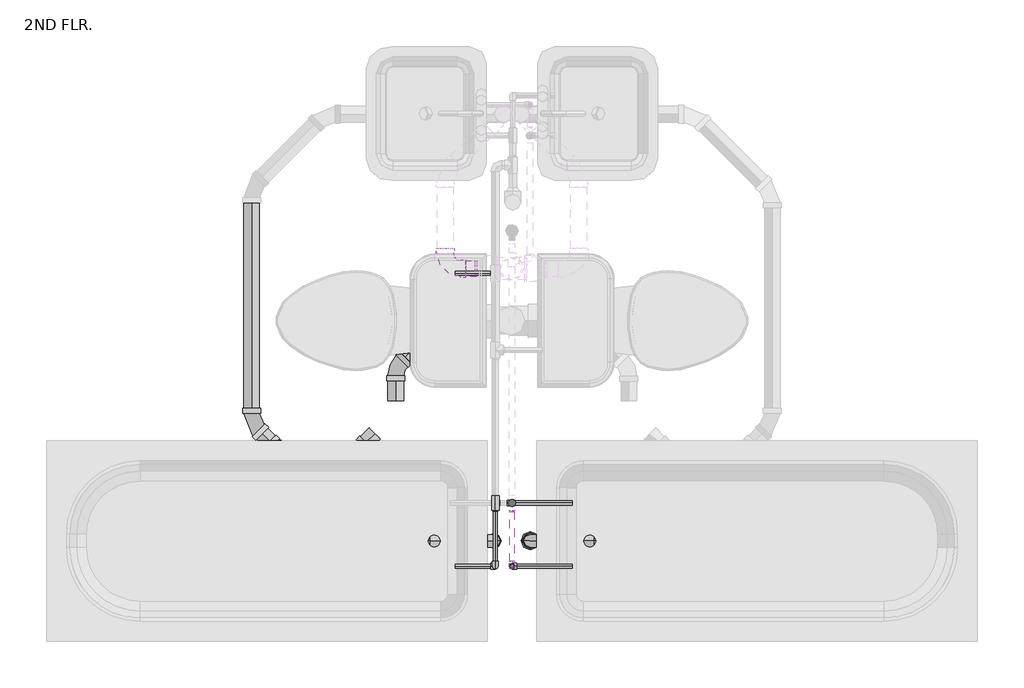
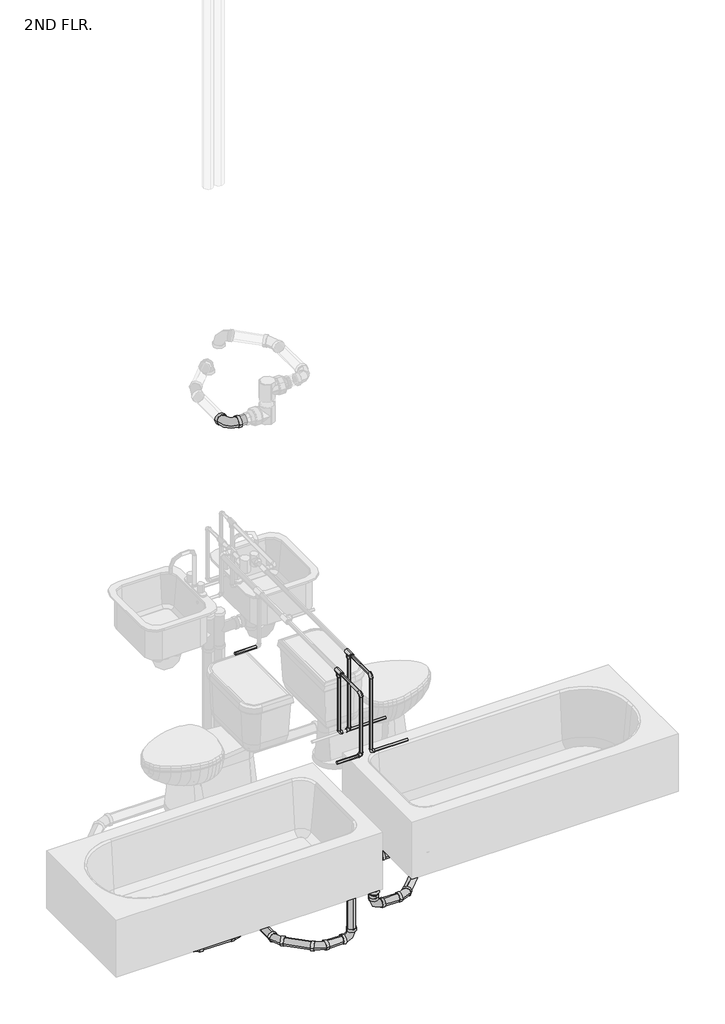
# One storey, part 5 of 15: 31 pipe fittings, 31 pipe segments.
"""IFC4 building model written with IfcOpenShell, lengths in millimetres."""

from ifc_helpers import new_model, si_unit, point, frame, frame_2d, origin, place, context, project, spatial, circle_curve, trimmed, segment, composite_curve, outline, extrude, transform, mapped, element, save
from components import bend_pvc_sch_40_dwv_standard_738aab8b, bend_pvc_sch_40_dwv_standard_e59a9f3a, bend_pvc_sch_40_dwv_standard_35af41d9, bend_pvc_sch_40_dwv_standard_c28c2be1, bend_pvc_sch_40_dwv_standard_1eaeee76, bend_pvc_sch_40_dwv_standard_7417f2e3, bend_pvc_sch_40_dwv_standard_1a41d59f, bend_pvc_sch_40_dwv_standard_f64d1520, bend_pvc_sch_40_dwv_standard_b7f24270, pipe_elbow_copper_k_aad62f2d, pipe_tee_copper_k_ee363fbf, pipe_transition_copper_k_859ff352, reducer_pvc_sch_40_dwv_standard_b2b0afcc, reducer_pvc_sch_40_dwv_standard_230e9924

model = new_model("IFC4")

# Units and contexts
model_context = context("Model", 3, world=origin())
ifc_project = project(units=[si_unit("LENGTHUNIT", "METRE", prefix="MILLI")], contexts=[model_context])

# Site, building, storey
site = spatial("IfcSite", under=ifc_project)
building = spatial("IfcBuilding", under=site)
storey = spatial("IfcBuildingStorey", under=building, Name="2ND FLR.", Elevation=2844.8)

# Pipe fittings
placement = place(None, origin())
bend_pvc_sch_40_dwv_standard_shape = bend_pvc_sch_40_dwv_standard_738aab8b(model_context)
element("IfcPipeFitting", 1, ObjectType="Bend - PVC - Sch 40 - DWV : Standard", at=placement, inside=storey, context=model_context, shape_type="MappedRepresentation", body=[
    mapped(bend_pvc_sch_40_dwv_standard_shape, transform((2187.8261339, 6842.0859908, 2762.4996815), x_axis=(0.0, 0.0, 1.0), y_axis=(1.0, 0.0, 0.0), z_axis=(0.0, 1.0, 0.0))),
])
element("IfcPipeFitting", 2, ObjectType="Bend - PVC - Sch 40 - DWV : Standard", at=placement, inside=storey, context=model_context, shape_type="MappedRepresentation", body=[
    mapped(bend_pvc_sch_40_dwv_standard_shape, transform((2187.8261339, 6842.0829061, 2448.8949826), x_axis=(0.0, 0.0, -1.0), y_axis=(1.0, 0.0, 0.0), z_axis=(0.0, -1.0, 0.0))),
])
element("IfcPipeFitting", 3, ObjectType="Bend - PVC - Sch 40 - DWV : Standard", at=placement, inside=storey, context=model_context, shape_type="MappedRepresentation", body=[
    mapped(bend_pvc_sch_40_dwv_standard_shape, transform((2492.6261339, 6842.0859908, 2762.4996815), x_axis=(1.0, 0.0, 0.0), y_axis=(0.0, 0.0, 1.0), z_axis=(0.0, -1.0, 0.0))),
])
bend_pvc_sch_40_dwv_standard_2_shape = bend_pvc_sch_40_dwv_standard_e59a9f3a(model_context)
element("IfcPipeFitting", 4, ObjectType="Bend - PVC - Sch 40 - DWV : Standard", at=placement, inside=storey, context=model_context, shape_type="MappedRepresentation", body=[
    mapped(bend_pvc_sch_40_dwv_standard_2_shape, transform((2386.114944, 6842.0829061, 2448.8949826), x_axis=(1.0, 0.0, 0.0), y_axis=(0.0, 1.0, 0.0), z_axis=(0.0, 0.0, 1.0))),
])
bend_pvc_sch_40_dwv_standard_3_shape = bend_pvc_sch_40_dwv_standard_35af41d9(model_context)
element("IfcPipeFitting", 5, ObjectType="Bend - PVC - Sch 40 - DWV : Standard", at=placement, inside=storey, context=model_context, shape_type="MappedRepresentation", body=[
    mapped(bend_pvc_sch_40_dwv_standard_3_shape, transform((2048.7908411, 6842.0859908, 2762.4996815), x_axis=(0.0, 0.0, 1.0), y_axis=(1.0, 0.0, 0.0), z_axis=(0.0, 1.0, 0.0))),
])
element("IfcPipeFitting", 6, ObjectType="Bend - PVC - Sch 40 - DWV : Standard", at=placement, inside=storey, context=model_context, shape_type="MappedRepresentation", body=[
    mapped(bend_pvc_sch_40_dwv_standard_3_shape, transform((2048.7908411, 6842.0839258, 2291.2212536), x_axis=(0.0, 0.0, -1.0), y_axis=(1.0, 0.0, 0.0), z_axis=(0.0, -1.0, 0.0))),
])
element("IfcPipeFitting", 7, ObjectType="Bend - PVC - Sch 40 - DWV : Standard", at=placement, inside=storey, context=model_context, shape_type="MappedRepresentation", body=[
    mapped(bend_pvc_sch_40_dwv_standard_3_shape, transform((1743.9908411, 6842.0859908, 2762.4996815), x_axis=(-1.0, 0.0, 0.0), y_axis=(0.0, 0.0, -1.0), z_axis=(0.0, -1.0, 0.0))),
])
bend_pvc_sch_40_dwv_standard_4_shape = bend_pvc_sch_40_dwv_standard_c28c2be1(model_context)
element("IfcPipeFitting", 8, ObjectType="Bend - PVC - Sch 40 - DWV : Standard", at=placement, inside=storey, context=model_context, shape_type="MappedRepresentation", body=[
    mapped(bend_pvc_sch_40_dwv_standard_4_shape, transform((1676.2806203, 7016.3063561, 2291.2212536), x_axis=(-0.7071067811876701, 0.7071067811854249, 0.0), y_axis=(-0.7071067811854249, -0.7071067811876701, 0.0), z_axis=(0.0, 0.0, 1.0))),
])
element("IfcPipeFitting", 9, ObjectType="Bend - PVC - Sch 40 - DWV : Standard", at=placement, inside=storey, context=model_context, shape_type="MappedRepresentation", body=[
    mapped(bend_pvc_sch_40_dwv_standard_4_shape, transform((1850.5030506, 6842.0839258, 2291.2212536), x_axis=(-1.0, 0.0, 0.0), y_axis=(0.0, -1.0, 0.0), z_axis=(0.0, 0.0, 1.0))),
])
bend_pvc_sch_40_dwv_standard_5_shape = bend_pvc_sch_40_dwv_standard_1eaeee76(model_context)
element("IfcPipeFitting", 10, ObjectType="Bend - PVC - Sch 40 - DWV : Standard", at=placement, inside=storey, context=model_context, shape_type="MappedRepresentation", body=[
    mapped(bend_pvc_sch_40_dwv_standard_5_shape, transform((1864.3084875, 7876.8887644, 5130.8), x_axis=(0.0, -0.9999999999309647, 1.1750347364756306e-05), y_axis=(1.0, 0.0, 0.0), z_axis=(0.0, 1.1750347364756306e-05, 0.9999999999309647))),
])
element("IfcPipeFitting", 11, ObjectType="Bend - PVC - Sch 40 - DWV : Standard", at=placement, inside=storey, context=model_context, shape_type="MappedRepresentation", body=[
    mapped(bend_pvc_sch_40_dwv_standard_5_shape, transform((1864.3084875, 7876.8887644, 5130.7990858), x_axis=(0.0, -0.9999999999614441, 8.781345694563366e-06), y_axis=(1.0000000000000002, 0.0, 0.0), z_axis=(0.0, 8.781345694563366e-06, 0.9999999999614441))),
])
bend_pvc_sch_40_dwv_standard_6_shape = bend_pvc_sch_40_dwv_standard_7417f2e3(model_context)
element("IfcPipeFitting", 12, ObjectType="Bend - PVC - Sch 40 - DWV : Standard", at=placement, inside=storey, context=model_context, shape_type="MappedRepresentation", body=[
    mapped(bend_pvc_sch_40_dwv_standard_6_shape, transform((1565.9080231, 7679.2137881, 2290.1699315), x_axis=(-0.9999739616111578, 0.0, -0.0072163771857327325), y_axis=(0.0072163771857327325, 0.0, -0.9999739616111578), z_axis=(0.0, -1.0, 0.0))),
])
bend_pvc_sch_40_dwv_standard_7_shape = bend_pvc_sch_40_dwv_standard_1a41d59f(model_context)
element("IfcPipeFitting", 13, ObjectType="Bend - PVC - Sch 40 - DWV : Standard", at=placement, inside=storey, context=model_context, shape_type="MappedRepresentation", body=[
    mapped(bend_pvc_sch_40_dwv_standard_7_shape, transform((1676.2806203, 7502.8568393, 2291.2212536), x_axis=(0.0, 1.0, 0.0), y_axis=(-0.9999186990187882, 0.0, -0.012751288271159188), z_axis=(-0.012751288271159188, 0.0, 0.9999186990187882))),
])
bend_pvc_sch_40_dwv_standard_8_shape = bend_pvc_sch_40_dwv_standard_f64d1520(model_context)
element("IfcPipeFitting", 14, ObjectType="Bend - PVC - Sch 40 - DWV : Standard", at=placement, inside=storey, context=model_context, shape_type="MappedRepresentation", body=[
    mapped(bend_pvc_sch_40_dwv_standard_8_shape, transform((1127.6578381, 7289.5723223, 2291.1952447), x_axis=(-0.707106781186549, 0.707106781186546, 0.0), y_axis=(-0.707106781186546, -0.707106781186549, 0.0), z_axis=(0.0, 0.0, 1.0))),
])
element("IfcPipeFitting", 15, ObjectType="Bend - PVC - Sch 40 - DWV : Standard", at=placement, inside=storey, context=model_context, shape_type="MappedRepresentation", body=[
    mapped(bend_pvc_sch_40_dwv_standard_8_shape, transform((1237.3759139, 7179.8542465, 2291.1952447), x_axis=(-1.0, 0.0, 0.0), y_axis=(0.0, -1.0, 0.0), z_axis=(0.0, 0.0, 1.0))),
])
bend_pvc_sch_40_dwv_standard_9_shape = bend_pvc_sch_40_dwv_standard_b7f24270(model_context)
element("IfcPipeFitting", 16, ObjectType="Bend - PVC - Sch 40 - DWV : Standard", at=placement, inside=storey, context=model_context, shape_type="MappedRepresentation", body=[
    mapped(bend_pvc_sch_40_dwv_standard_9_shape, transform((1525.8654903, 7179.8542465, 2291.1952447), x_axis=(-0.7071067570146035, -0.7071067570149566, -0.0002614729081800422), y_axis=(0.7071068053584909, -0.7071067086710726, -0.0002614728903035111), z_axis=(0.0, -0.0003697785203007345, 0.9999999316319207))),
])
pipe_elbow_copper_k_shape = pipe_elbow_copper_k_aad62f2d(model_context)
element("IfcPipeFitting", 17, ObjectType="Pipe Elbow : Copper- K", at=placement, inside=storey, context=model_context, shape_type="MappedRepresentation", body=[
    mapped(pipe_elbow_copper_k_shape, transform((2118.3084875, 6746.0012881, 4064.0), x_axis=(0.0, -1.0, 0.0), y_axis=(0.0, 0.0, -1.0), z_axis=(1.0, 0.0, 0.0))),
])
element("IfcPipeFitting", 18, ObjectType="Pipe Elbow : Copper- K", at=placement, inside=storey, context=model_context, shape_type="MappedRepresentation", body=[
    mapped(pipe_elbow_copper_k_shape, transform((2118.3084875, 6746.0012881, 3556.0), x_axis=(0.0, 0.0, -1.0), y_axis=(1.0, 0.0, 0.0), z_axis=(0.0, -1.0, 0.0))),
])
element("IfcPipeFitting", 19, ObjectType="Pipe Elbow : Copper- K", at=placement, inside=storey, context=model_context, shape_type="MappedRepresentation", body=[
    mapped(pipe_elbow_copper_k_shape, transform((2118.3084875, 6986.022219, 3556.0), x_axis=(0.0, 0.0, -1.0), y_axis=(-1.0, 0.0, 0.0), z_axis=(0.0, 1.0, 0.0))),
])
element("IfcPipeFitting", 20, ObjectType="Pipe Elbow : Copper- K", at=placement, inside=storey, context=model_context, shape_type="MappedRepresentation", body=[
    mapped(pipe_elbow_copper_k_shape, transform((2054.8084875, 6746.0012881, 3962.4), x_axis=(0.0, -1.0, 0.0), y_axis=(0.0, 0.0, -1.0), z_axis=(1.0, 0.0, 0.0))),
])
element("IfcPipeFitting", 21, ObjectType="Pipe Elbow : Copper- K", at=placement, inside=storey, context=model_context, shape_type="MappedRepresentation", body=[
    mapped(pipe_elbow_copper_k_shape, transform((2054.8084875, 6746.0012881, 3556.0), x_axis=(0.0, 0.0, -1.0), y_axis=(-1.0, 0.0, 0.0), z_axis=(0.0, 1.0, 0.0))),
])
element("IfcPipeFitting", 22, ObjectType="Pipe Elbow : Copper- K", at=placement, inside=storey, context=model_context, shape_type="MappedRepresentation", body=[
    mapped(pipe_elbow_copper_k_shape, transform((2054.8084875, 6986.022219, 3556.0), x_axis=(0.0, 0.0, -1.0), y_axis=(1.0, 0.0, 0.0), z_axis=(0.0, -1.0, 0.0))),
])
pipe_tee_copper_k_shape = pipe_tee_copper_k_ee363fbf(model_context)
element("IfcPipeFitting", 23, ObjectType="Pipe Tee : Copper- K", at=placement, inside=storey, context=model_context, shape_type="MappedRepresentation", body=[
    mapped(pipe_tee_copper_k_shape, transform((2118.3084875, 6986.022219, 4064.0), x_axis=(0.0, 1.0, 0.0), y_axis=(0.0, 0.0, 1.0), z_axis=(1.0, 0.0, 0.0))),
])
element("IfcPipeFitting", 24, ObjectType="Pipe Tee : Copper- K", at=placement, inside=storey, context=model_context, shape_type="MappedRepresentation", body=[
    mapped(pipe_tee_copper_k_shape, transform((2054.8084875, 6986.022219, 3962.4), x_axis=(0.0, 1.0, 0.0), y_axis=(0.0, 0.0, 1.0), z_axis=(1.0, 0.0, 0.0))),
])
pipe_transition_copper_k_shape = pipe_transition_copper_k_859ff352(model_context)
element("IfcPipeFitting", 25, ObjectType="Pipe Transition : Copper- K", at=placement, inside=storey, context=model_context, shape_type="MappedRepresentation", body=[
    mapped(pipe_transition_copper_k_shape, transform((2118.3084875, 6986.022219, 4037.0125), x_axis=(0.0, 0.0, -1.0), y_axis=(0.0, -1.0, 0.0), z_axis=(-1.0, 0.0, 0.0))),
])
element("IfcPipeFitting", 26, ObjectType="Pipe Transition : Copper- K", at=placement, inside=storey, context=model_context, shape_type="MappedRepresentation", body=[
    mapped(pipe_transition_copper_k_shape, transform((2054.8084875, 6986.022219, 3935.4125), x_axis=(0.0, 0.0, -1.0), y_axis=(0.0, 1.0, 0.0), z_axis=(1.0, 0.0, 0.0))),
])
element("IfcPipeFitting", 27, ObjectType="Pipe Transition : Copper- K", at=placement, inside=storey, context=model_context, shape_type="MappedRepresentation", body=[
    mapped(pipe_transition_copper_k_shape, transform((2118.3084875, 6959.034719, 4064.0), x_axis=(0.0, -1.0, 0.0), y_axis=(1.0, 0.0, 0.0), z_axis=(0.0, 0.0, 1.0))),
])
element("IfcPipeFitting", 28, ObjectType="Pipe Transition : Copper- K", at=placement, inside=storey, context=model_context, shape_type="MappedRepresentation", body=[
    mapped(pipe_transition_copper_k_shape, transform((2054.8084875, 6959.034719, 3962.4), x_axis=(0.0, -1.0, 0.0), y_axis=(1.0, 0.0, 0.0), z_axis=(0.0, 0.0, 1.0))),
])
reducer_pvc_sch_40_dwv_standard_shape = reducer_pvc_sch_40_dwv_standard_b2b0afcc(model_context)
element("IfcPipeFitting", 29, ObjectType="Reducer - PVC - Sch 40 - DWV : Standard", at=placement, inside=storey, context=model_context, shape_type="MappedRepresentation", body=[
    mapped(reducer_pvc_sch_40_dwv_standard_shape, transform((2187.8261339, 6842.0829061, 2510.7947826), x_axis=(0.0, 0.0, 1.0), y_axis=(0.0, 1.0, 0.0), z_axis=(-1.0, 0.0, 0.0))),
])
reducer_pvc_sch_40_dwv_standard_2_shape = reducer_pvc_sch_40_dwv_standard_230e9924(model_context)
element("IfcPipeFitting", 30, ObjectType="Reducer - PVC - Sch 40 - DWV : Standard", at=placement, inside=storey, context=model_context, shape_type="MappedRepresentation", body=[
    mapped(reducer_pvc_sch_40_dwv_standard_2_shape, transform((2187.8261339, 6842.0859908, 2700.5998815), x_axis=(0.0, 0.0, -1.0), y_axis=(0.0, -1.0, 0.0), z_axis=(-1.0, 0.0, 0.0))),
])
element("IfcPipeFitting", 31, ObjectType="Reducer - PVC - Sch 40 - DWV : Standard", at=placement, inside=storey, context=model_context, shape_type="MappedRepresentation", body=[
    mapped(reducer_pvc_sch_40_dwv_standard_2_shape, transform((2492.6261339, 6842.0859908, 2824.3994815), x_axis=(0.0, 0.0, 1.0), y_axis=(-1.0, 0.0, 0.0), z_axis=(0.0, -1.0, 0.0))),
])

# Pipe segments
element("IfcPipeSegment", 32, ObjectType="Copper", at=placement, inside=storey, context=model_context, shape_type="SweptSolid", body=[
    extrude(outline(composite_curve([segment(trimmed(circle_curve(frame_2d((4064.0, 2118.3084875)), 7.9375), [point((4064.0, 2110.3709875))], [point((4056.0625, 2118.3084875))], False, "CARTESIAN"), True, "CONTINUOUS"), segment(trimmed(circle_curve(frame_2d((4064.0, 2118.3084875)), 7.9375), [point((4056.0625, 2118.3084875))], [point((4064.0, 2126.2459875))], False, "CARTESIAN"), True, "CONTINUOUS"), segment(trimmed(circle_curve(frame_2d((4064.0, 2118.3084875)), 7.9375), [point((4064.0, 2126.2459875))], [point((4071.9375, 2118.3084875))], False, "CARTESIAN"), True, "CONTINUOUS"), segment(trimmed(circle_curve(frame_2d((4064.0, 2118.3084875)), 7.9375), [point((4071.9375, 2118.3084875))], [point((4064.0, 2110.3709875))], False, "CARTESIAN"), True, "CONTINUOUS")], self_intersect=False)), frame((0.0, 6763.4637881, 0.0), z_axis=(0.0, 1.0, 0.0), x_axis=(0.0, 0.0, 1.0)), (0.0, 0.0, 1.0), 190.0146809),
])
element("IfcPipeSegment", 33, ObjectType="Copper", at=placement, inside=storey, context=model_context, shape_type="SweptSolid", body=[
    extrude(outline(composite_curve([segment(trimmed(circle_curve(frame_2d((7859.3528944, 3606.8)), 7.9375), [point((7867.2903944, 3606.8))], [point((7859.3528944, 3598.8625))], False, "CARTESIAN"), True, "CONTINUOUS"), segment(trimmed(circle_curve(frame_2d((7859.3528944, 3606.8)), 7.9375), [point((7859.3528944, 3598.8625))], [point((7851.4153944, 3606.8))], False, "CARTESIAN"), True, "CONTINUOUS"), segment(trimmed(circle_curve(frame_2d((7859.3528944, 3606.8)), 7.9375), [point((7851.4153944, 3606.8))], [point((7859.3528944, 3614.7375))], False, "CARTESIAN"), True, "CONTINUOUS"), segment(trimmed(circle_curve(frame_2d((7859.3528944, 3606.8)), 7.9375), [point((7859.3528944, 3614.7375))], [point((7867.2903944, 3606.8))], False, "CARTESIAN"), True, "CONTINUOUS")], self_intersect=False)), frame((1902.4084875, 0.0, 0.0), z_axis=(1.0, 0.0, 0.0), x_axis=(0.0, 1.0, 0.0)), (0.0, 0.0, 1.0), 134.9375),
])
element("IfcPipeSegment", 34, ObjectType="Copper", at=placement, inside=storey, context=model_context, shape_type="SweptSolid", body=[
    extrude(outline(composite_curve([segment(trimmed(circle_curve(frame_2d((6746.0012881, 3556.0)), 7.9375), [point((6738.0637881, 3556.0))], [point((6746.0012881, 3563.9375))], False, "CARTESIAN"), True, "CONTINUOUS"), segment(trimmed(circle_curve(frame_2d((6746.0012881, 3556.0)), 7.9375), [point((6746.0012881, 3563.9375))], [point((6753.9387881, 3556.0))], False, "CARTESIAN"), True, "CONTINUOUS"), segment(trimmed(circle_curve(frame_2d((6746.0012881, 3556.0)), 7.9375), [point((6753.9387881, 3556.0))], [point((6746.0012881, 3548.0625))], False, "CARTESIAN"), True, "CONTINUOUS"), segment(trimmed(circle_curve(frame_2d((6746.0012881, 3556.0)), 7.9375), [point((6746.0012881, 3548.0625))], [point((6738.0637881, 3556.0))], False, "CARTESIAN"), True, "CONTINUOUS")], self_intersect=False)), frame((2135.7709875, 0.0, 0.0), z_axis=(1.0, 0.0, 0.0), x_axis=(0.0, 1.0, 0.0)), (0.0, 0.0, 1.0), 211.1375),
])
element("IfcPipeSegment", 35, ObjectType="Copper", at=placement, inside=storey, context=model_context, shape_type="SweptSolid", body=[
    extrude(outline(composite_curve([segment(trimmed(circle_curve(frame_2d((2118.3084875, 6746.0012881)), 7.9375), [point((2126.2459875, 6746.0012881))], [point((2118.3084875, 6738.0637881))], False, "CARTESIAN"), True, "CONTINUOUS"), segment(trimmed(circle_curve(frame_2d((2118.3084875, 6746.0012881)), 7.9375), [point((2118.3084875, 6738.0637881))], [point((2110.3709875, 6746.0012881))], False, "CARTESIAN"), True, "CONTINUOUS"), segment(trimmed(circle_curve(frame_2d((2118.3084875, 6746.0012881)), 7.9375), [point((2110.3709875, 6746.0012881))], [point((2118.3084875, 6753.9387881))], False, "CARTESIAN"), True, "CONTINUOUS"), segment(trimmed(circle_curve(frame_2d((2118.3084875, 6746.0012881)), 7.9375), [point((2118.3084875, 6753.9387881))], [point((2126.2459875, 6746.0012881))], False, "CARTESIAN"), True, "CONTINUOUS")], self_intersect=False)), frame((0.0, 0.0, 3573.4625), z_axis=(0.0, 0.0, 1.0), x_axis=(1.0, 0.0, 0.0)), (0.0, 0.0, 1.0), 473.075),
])
element("IfcPipeSegment", 36, ObjectType="Copper", at=placement, inside=storey, context=model_context, shape_type="SweptSolid", body=[
    extrude(outline(composite_curve([segment(trimmed(circle_curve(frame_2d((2118.3084875, 6986.022219)), 7.9375), [point((2126.2459875, 6986.022219))], [point((2118.3084875, 6978.084719))], False, "CARTESIAN"), True, "CONTINUOUS"), segment(trimmed(circle_curve(frame_2d((2118.3084875, 6986.022219)), 7.9375), [point((2118.3084875, 6978.084719))], [point((2110.3709875, 6986.022219))], False, "CARTESIAN"), True, "CONTINUOUS"), segment(trimmed(circle_curve(frame_2d((2118.3084875, 6986.022219)), 7.9375), [point((2110.3709875, 6986.022219))], [point((2118.3084875, 6993.959719))], False, "CARTESIAN"), True, "CONTINUOUS"), segment(trimmed(circle_curve(frame_2d((2118.3084875, 6986.022219)), 7.9375), [point((2118.3084875, 6993.959719))], [point((2126.2459875, 6986.022219))], False, "CARTESIAN"), True, "CONTINUOUS")], self_intersect=False)), frame((0.0, 0.0, 3573.4625), z_axis=(0.0, 0.0, 1.0), x_axis=(1.0, 0.0, 0.0)), (0.0, 0.0, 1.0), 457.99375),
])
element("IfcPipeSegment", 37, ObjectType="Copper", at=placement, inside=storey, context=model_context, shape_type="SweptSolid", body=[
    extrude(outline(composite_curve([segment(trimmed(circle_curve(frame_2d((3962.4, 2054.8084875)), 7.9375), [point((3962.4, 2046.8709875))], [point((3954.4625, 2054.8084875))], False, "CARTESIAN"), True, "CONTINUOUS"), segment(trimmed(circle_curve(frame_2d((3962.4, 2054.8084875)), 7.9375), [point((3954.4625, 2054.8084875))], [point((3962.4, 2062.7459875))], False, "CARTESIAN"), True, "CONTINUOUS"), segment(trimmed(circle_curve(frame_2d((3962.4, 2054.8084875)), 7.9375), [point((3962.4, 2062.7459875))], [point((3970.3375, 2054.8084875))], False, "CARTESIAN"), True, "CONTINUOUS"), segment(trimmed(circle_curve(frame_2d((3962.4, 2054.8084875)), 7.9375), [point((3970.3375, 2054.8084875))], [point((3962.4, 2046.8709875))], False, "CARTESIAN"), True, "CONTINUOUS")], self_intersect=False)), frame((0.0, 6763.4637881, 0.0), z_axis=(0.0, 1.0, 0.0), x_axis=(0.0, 0.0, 1.0)), (0.0, 0.0, 1.0), 190.0146809),
])
element("IfcPipeSegment", 38, ObjectType="Copper", at=placement, inside=storey, context=model_context, shape_type="SweptSolid", body=[
    extrude(outline(composite_curve([segment(trimmed(circle_curve(frame_2d((6746.0012881, 3556.0)), 7.9375), [point((6753.9387881, 3556.0))], [point((6746.0012881, 3548.0625))], False, "CARTESIAN"), True, "CONTINUOUS"), segment(trimmed(circle_curve(frame_2d((6746.0012881, 3556.0)), 7.9375), [point((6746.0012881, 3548.0625))], [point((6738.0637881, 3556.0))], False, "CARTESIAN"), True, "CONTINUOUS"), segment(trimmed(circle_curve(frame_2d((6746.0012881, 3556.0)), 7.9375), [point((6738.0637881, 3556.0))], [point((6746.0012881, 3563.9375))], False, "CARTESIAN"), True, "CONTINUOUS"), segment(trimmed(circle_curve(frame_2d((6746.0012881, 3556.0)), 7.9375), [point((6746.0012881, 3563.9375))], [point((6753.9387881, 3556.0))], False, "CARTESIAN"), True, "CONTINUOUS")], self_intersect=False)), frame((1902.4084875, 0.0, 0.0), z_axis=(1.0, 0.0, 0.0), x_axis=(0.0, 1.0, 0.0)), (0.0, 0.0, 1.0), 134.9375),
])
element("IfcPipeSegment", 39, ObjectType="Copper", at=placement, inside=storey, context=model_context, shape_type="SweptSolid", body=[
    extrude(outline(composite_curve([segment(trimmed(circle_curve(frame_2d((2054.8084875, 6746.0012881)), 7.9375), [point((2062.7459875, 6746.0012881))], [point((2054.8084875, 6738.0637881))], False, "CARTESIAN"), True, "CONTINUOUS"), segment(trimmed(circle_curve(frame_2d((2054.8084875, 6746.0012881)), 7.9375), [point((2054.8084875, 6738.0637881))], [point((2046.8709875, 6746.0012881))], False, "CARTESIAN"), True, "CONTINUOUS"), segment(trimmed(circle_curve(frame_2d((2054.8084875, 6746.0012881)), 7.9375), [point((2046.8709875, 6746.0012881))], [point((2054.8084875, 6753.9387881))], False, "CARTESIAN"), True, "CONTINUOUS"), segment(trimmed(circle_curve(frame_2d((2054.8084875, 6746.0012881)), 7.9375), [point((2054.8084875, 6753.9387881))], [point((2062.7459875, 6746.0012881))], False, "CARTESIAN"), True, "CONTINUOUS")], self_intersect=False)), frame((0.0, 0.0, 3573.4625), z_axis=(0.0, 0.0, 1.0), x_axis=(1.0, 0.0, 0.0)), (0.0, 0.0, 1.0), 371.475),
])
element("IfcPipeSegment", 40, ObjectType="Copper", at=placement, inside=storey, context=model_context, shape_type="SweptSolid", body=[
    extrude(outline(composite_curve([segment(trimmed(circle_curve(frame_2d((6986.022219, 3556.0)), 7.9375), [point((6978.084719, 3556.0))], [point((6986.022219, 3563.9375))], False, "CARTESIAN"), True, "CONTINUOUS"), segment(trimmed(circle_curve(frame_2d((6986.022219, 3556.0)), 7.9375), [point((6986.022219, 3563.9375))], [point((6993.959719, 3556.0))], False, "CARTESIAN"), True, "CONTINUOUS"), segment(trimmed(circle_curve(frame_2d((6986.022219, 3556.0)), 7.9375), [point((6993.959719, 3556.0))], [point((6986.022219, 3548.0625))], False, "CARTESIAN"), True, "CONTINUOUS"), segment(trimmed(circle_curve(frame_2d((6986.022219, 3556.0)), 7.9375), [point((6986.022219, 3548.0625))], [point((6978.084719, 3556.0))], False, "CARTESIAN"), True, "CONTINUOUS")], self_intersect=False)), frame((2072.2709875, 0.0, 0.0), z_axis=(1.0, 0.0, 0.0), x_axis=(0.0, 1.0, 0.0)), (0.0, 0.0, 1.0), 274.6375),
])
element("IfcPipeSegment", 41, ObjectType="Copper", at=placement, inside=storey, context=model_context, shape_type="SweptSolid", body=[
    extrude(outline(composite_curve([segment(trimmed(circle_curve(frame_2d((2054.8084875, 6986.022219)), 7.9375), [point((2062.7459875, 6986.022219))], [point((2054.8084875, 6978.084719))], False, "CARTESIAN"), True, "CONTINUOUS"), segment(trimmed(circle_curve(frame_2d((2054.8084875, 6986.022219)), 7.9375), [point((2054.8084875, 6978.084719))], [point((2046.8709875, 6986.022219))], False, "CARTESIAN"), True, "CONTINUOUS"), segment(trimmed(circle_curve(frame_2d((2054.8084875, 6986.022219)), 7.9375), [point((2046.8709875, 6986.022219))], [point((2054.8084875, 6993.959719))], False, "CARTESIAN"), True, "CONTINUOUS"), segment(trimmed(circle_curve(frame_2d((2054.8084875, 6986.022219)), 7.9375), [point((2054.8084875, 6993.959719))], [point((2062.7459875, 6986.022219))], False, "CARTESIAN"), True, "CONTINUOUS")], self_intersect=False)), frame((0.0, 0.0, 3573.4625), z_axis=(0.0, 0.0, 1.0), x_axis=(1.0, 0.0, 0.0)), (0.0, 0.0, 1.0), 356.39375),
])
element("IfcPipeSegment", 42, ObjectType="PVC - SAN/STORM", at=placement, inside=storey, context=model_context, shape_type="SweptSolid", body=[
    extrude(outline(composite_curve([segment(trimmed(circle_curve(frame_2d((6842.0829061, 2448.8949826)), 24.13), [point((6817.9529061, 2448.8949826))], [point((6842.0829061, 2473.0249826))], False, "CARTESIAN"), True, "CONTINUOUS"), segment(trimmed(circle_curve(frame_2d((6842.0829061, 2448.8949826)), 24.13), [point((6842.0829061, 2473.0249826))], [point((6866.2129061, 2448.8949826))], False, "CARTESIAN"), True, "CONTINUOUS"), segment(trimmed(circle_curve(frame_2d((6842.0829061, 2448.8949826)), 24.13), [point((6866.2129061, 2448.8949826))], [point((6842.0829061, 2424.7649826))], False, "CARTESIAN"), True, "CONTINUOUS"), segment(trimmed(circle_curve(frame_2d((6842.0829061, 2448.8949826)), 24.13), [point((6842.0829061, 2424.7649826))], [point((6817.9529061, 2448.8949826))], False, "CARTESIAN"), True, "CONTINUOUS")], self_intersect=False)), frame((2249.7259339, 0.0, 0.0), z_axis=(1.0, 0.0, 0.0), x_axis=(0.0, 1.0, 0.0)), (0.0, 0.0, 1.0), 90.3642101),
])
element("IfcPipeSegment", 43, ObjectType="PVC - SAN/STORM", at=placement, inside=storey, context=model_context, shape_type="SweptSolid", body=[
    extrude(outline(composite_curve([segment(trimmed(circle_curve(frame_2d((6842.0859908, 2762.4996815)), 24.13), [point((6817.9559908, 2762.4996815))], [point((6842.0859908, 2786.6296815))], False, "CARTESIAN"), True, "CONTINUOUS"), segment(trimmed(circle_curve(frame_2d((6842.0859908, 2762.4996815)), 24.13), [point((6842.0859908, 2786.6296815))], [point((6866.2159908, 2762.4996815))], False, "CARTESIAN"), True, "CONTINUOUS"), segment(trimmed(circle_curve(frame_2d((6842.0859908, 2762.4996815)), 24.13), [point((6866.2159908, 2762.4996815))], [point((6842.0859908, 2738.3696815))], False, "CARTESIAN"), True, "CONTINUOUS"), segment(trimmed(circle_curve(frame_2d((6842.0859908, 2762.4996815)), 24.13), [point((6842.0859908, 2738.3696815))], [point((6817.9559908, 2762.4996815))], False, "CARTESIAN"), True, "CONTINUOUS")], self_intersect=False)), frame((2249.7259339, 0.0, 0.0), z_axis=(1.0, 0.0, 0.0), x_axis=(0.0, 1.0, 0.0)), (0.0, 0.0, 1.0), 181.0004),
])
element("IfcPipeSegment", 44, ObjectType="PVC - SAN/STORM", at=placement, inside=storey, context=model_context, shape_type="SweptSolid", body=[
    extrude(outline(composite_curve([segment(trimmed(circle_curve(frame_2d((0.0, 30.1625)), 30.1625), [point((-30.1625, 30.1625))], [point((0.0, 60.325))], False, "CARTESIAN"), True, "CONTINUOUS"), segment(trimmed(circle_curve(frame_2d((0.0, 30.1625)), 30.1625), [point((0.0, 60.325))], [point((30.1625, 30.1625))], False, "CARTESIAN"), True, "CONTINUOUS"), segment(trimmed(circle_curve(frame_2d((0.0, 30.1625)), 30.1625), [point((30.1625, 30.1625))], [point((0.0, 0.0))], False, "CARTESIAN"), True, "CONTINUOUS"), segment(trimmed(circle_curve(frame_2d((0.0, 30.1625)), 30.1625), [point((0.0, 0.0))], [point((-30.1625, 30.1625))], False, "CARTESIAN"), True, "CONTINUOUS")], self_intersect=False)), frame((2187.8261339, 6811.9204061, 2560.7830184), z_axis=(0.0, 3.433837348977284e-05, 0.999999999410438), x_axis=(1.0, 0.0, 0.0)), (0.0, 0.0, 1.0), 89.830699),
])
element("IfcPipeSegment", 45, ObjectType="PVC - SAN/STORM", at=placement, inside=storey, context=model_context, shape_type="SweptSolid", body=[
    extrude(outline(composite_curve([segment(trimmed(circle_curve(frame_2d((0.0, -24.13)), 24.13), [point((-24.13, -24.13))], [point((0.0, 0.0))], False, "CARTESIAN"), True, "CONTINUOUS"), segment(trimmed(circle_curve(frame_2d((0.0, -24.13)), 24.13), [point((0.0, 0.0))], [point((24.13, -24.13))], False, "CARTESIAN"), True, "CONTINUOUS"), segment(trimmed(circle_curve(frame_2d((0.0, -24.13)), 24.13), [point((24.13, -24.13))], [point((0.0, -48.26))], False, "CARTESIAN"), True, "CONTINUOUS"), segment(trimmed(circle_curve(frame_2d((0.0, -24.13)), 24.13), [point((0.0, -48.26))], [point((-24.13, -24.13))], False, "CARTESIAN"), True, "CONTINUOUS")], self_intersect=False)), frame((2418.6593921, 6874.6273543, 2424.7649826), z_axis=(0.7071067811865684, 0.7071067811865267, 0.0), x_axis=(0.7071067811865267, -0.7071067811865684, 0.0)), (0.0, 0.0, 1.0), 158.1495157),
])
element("IfcPipeSegment", 46, ObjectType="PVC - SAN/STORM", at=placement, inside=storey, context=model_context, shape_type="SweptSolid", body=[
    extrude(outline(composite_curve([segment(trimmed(circle_curve(frame_2d((0.0, -44.45)), 44.45), [point((0.0, 0.0))], [point((44.45, -44.45))], False, "CARTESIAN"), True, "CONTINUOUS"), segment(trimmed(circle_curve(frame_2d((0.0, -44.45)), 44.45), [point((44.45, -44.45))], [point((0.0, -88.9))], False, "CARTESIAN"), True, "CONTINUOUS"), segment(trimmed(circle_curve(frame_2d((0.0, -44.45)), 44.45), [point((0.0, -88.9))], [point((-44.45, -44.45))], False, "CARTESIAN"), True, "CONTINUOUS"), segment(trimmed(circle_curve(frame_2d((0.0, -44.45)), 44.45), [point((-44.45, -44.45))], [point((0.0, 0.0))], False, "CARTESIAN"), True, "CONTINUOUS")], self_intersect=False)), frame((1912.960657, 7723.6637881, 2292.7217464), z_axis=(0.9999739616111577, 0.0, 0.0072163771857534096), x_axis=(0.0072163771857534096, 0.0, -0.9999739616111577)), (0.0, 0.0, 1.0), 27.3382317),
])
element("IfcPipeSegment", 47, ObjectType="PVC - SAN/STORM", at=placement, inside=storey, context=model_context, shape_type="SweptSolid", body=[
    extrude(outline(composite_curve([segment(trimmed(circle_curve(frame_2d((1565.9080231, 7679.2137881)), 44.45), [point((1521.4580231, 7679.2137881))], [point((1565.9080231, 7723.6637881))], False, "CARTESIAN"), True, "CONTINUOUS"), segment(trimmed(circle_curve(frame_2d((1565.9080231, 7679.2137881)), 44.45), [point((1565.9080231, 7723.6637881))], [point((1610.3580231, 7679.2137881))], False, "CARTESIAN"), True, "CONTINUOUS"), segment(trimmed(circle_curve(frame_2d((1565.9080231, 7679.2137881)), 44.45), [point((1610.3580231, 7679.2137881))], [point((1565.9080231, 7634.7637881))], False, "CARTESIAN"), True, "CONTINUOUS"), segment(trimmed(circle_curve(frame_2d((1565.9080231, 7679.2137881)), 44.45), [point((1565.9080231, 7634.7637881))], [point((1521.4580231, 7679.2137881))], False, "CARTESIAN"), True, "CONTINUOUS")], self_intersect=False)), frame((0.0, 0.0, 2406.0701315), z_axis=(0.0, 0.0, 1.0), x_axis=(1.0, 0.0, 0.0)), (0.0, 0.0, 1.0), 438.7298685),
])
element("IfcPipeSegment", 48, ObjectType="PVC - SAN/STORM", at=placement, inside=storey, context=model_context, shape_type="SweptSolid", body=[
    extrude(outline(composite_curve([segment(trimmed(circle_curve(frame_2d((0.0, -30.1625)), 30.1625), [point((-30.1612739, -29.8905392))], [point((0.2719608, -0.001226))], False, "CARTESIAN"), True, "CONTINUOUS"), segment(trimmed(circle_curve(frame_2d((0.0, -30.1625)), 30.1625), [point((0.2719608, -0.001226))], [point((30.161274, -30.4344609))], False, "CARTESIAN"), True, "CONTINUOUS"), segment(trimmed(circle_curve(frame_2d((0.0, -30.1625)), 30.1625), [point((30.161274, -30.4344609))], [point((-0.2719608, -60.3237739))], False, "CARTESIAN"), True, "CONTINUOUS"), segment(trimmed(circle_curve(frame_2d((0.0, -30.1625)), 30.1625), [point((-0.2719608, -60.3237739))], [point((-30.1612739, -29.8905392))], False, "CARTESIAN"), True, "CONTINUOUS")], self_intersect=False)), frame((1713.3311787, 7540.2923497, 2261.5809755), z_axis=(0.7070780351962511, 0.7070780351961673, 0.009016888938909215), x_axis=(0.7071355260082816, -0.7070205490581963, -0.009016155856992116)), (0.0, 0.0, 1.0), 60.4859629),
])
element("IfcPipeSegment", 49, ObjectType="PVC - SAN/STORM", at=placement, inside=storey, context=model_context, shape_type="SweptSolid", body=[
    extrude(outline(composite_curve([segment(trimmed(circle_curve(frame_2d((0.0, 44.45)), 44.45), [point((0.0, 0.0))], [point((-44.45, 44.45))], False, "CARTESIAN"), True, "CONTINUOUS"), segment(trimmed(circle_curve(frame_2d((0.0, 44.45)), 44.45), [point((-44.45, 44.45))], [point((0.0, 88.9))], False, "CARTESIAN"), True, "CONTINUOUS"), segment(trimmed(circle_curve(frame_2d((0.0, 44.45)), 44.45), [point((0.0, 88.9))], [point((44.45, 44.45))], False, "CARTESIAN"), True, "CONTINUOUS"), segment(trimmed(circle_curve(frame_2d((0.0, 44.45)), 44.45), [point((44.45, 44.45))], [point((0.0, 0.0))], False, "CARTESIAN"), True, "CONTINUOUS")], self_intersect=False)), frame((1681.8048641, 7634.7637881, 2291.0535956), z_axis=(0.9999739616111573, 0.0, 0.007216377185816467), x_axis=(0.007216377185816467, 0.0, -0.9999739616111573)), (0.0, 0.0, 1.0), 25.406322),
])
element("IfcPipeSegment", 50, ObjectType="PVC - SAN/STORM", at=placement, inside=storey, context=model_context, shape_type="SweptSolid", body=[
    extrude(outline(composite_curve([segment(trimmed(circle_curve(frame_2d((0.0, -24.13)), 24.13), [point((0.0, 0.0))], [point((24.13, -24.13))], False, "CARTESIAN"), True, "CONTINUOUS"), segment(trimmed(circle_curve(frame_2d((0.0, -24.13)), 24.13), [point((24.13, -24.13))], [point((0.0, -48.26))], False, "CARTESIAN"), True, "CONTINUOUS"), segment(trimmed(circle_curve(frame_2d((0.0, -24.13)), 24.13), [point((0.0, -48.26))], [point((-24.13, -24.13))], False, "CARTESIAN"), True, "CONTINUOUS"), segment(trimmed(circle_curve(frame_2d((0.0, -24.13)), 24.13), [point((-24.13, -24.13))], [point((0.0, 0.0))], False, "CARTESIAN"), True, "CONTINUOUS")], self_intersect=False)), frame((1652.1506203, 7062.3311561, 2291.2212536), z_axis=(-2.0643136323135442e-12, 1.0, 0.0), x_axis=(0.0, 0.0, -1.0)), (0.0, 0.0, 1.0), 150.9124829),
])
element("IfcPipeSegment", 51, ObjectType="PVC - SAN/STORM", at=placement, inside=storey, context=model_context, shape_type="SweptSolid", body=[
    extrude(outline(composite_curve([segment(trimmed(circle_curve(frame_2d((6842.0839258, 2291.2212536)), 24.13), [point((6866.2139258, 2291.2212536))], [point((6842.0839258, 2267.0912536))], False, "CARTESIAN"), True, "CONTINUOUS"), segment(trimmed(circle_curve(frame_2d((6842.0839258, 2291.2212536)), 24.13), [point((6842.0839258, 2267.0912536))], [point((6817.9539258, 2291.2212536))], False, "CARTESIAN"), True, "CONTINUOUS"), segment(trimmed(circle_curve(frame_2d((6842.0839258, 2291.2212536)), 24.13), [point((6817.9539258, 2291.2212536))], [point((6842.0839258, 2315.3512536))], False, "CARTESIAN"), True, "CONTINUOUS"), segment(trimmed(circle_curve(frame_2d((6842.0839258, 2291.2212536)), 24.13), [point((6842.0839258, 2315.3512536))], [point((6866.2139258, 2291.2212536))], False, "CARTESIAN"), True, "CONTINUOUS")], self_intersect=False)), frame((1896.5278506, 0.0, 0.0), z_axis=(1.0, 0.0, 0.0), x_axis=(0.0, 1.0, 0.0)), (0.0, 0.0, 1.0), 90.3631904),
])
element("IfcPipeSegment", 52, ObjectType="PVC - SAN/STORM", at=placement, inside=storey, context=model_context, shape_type="SweptSolid", body=[
    extrude(outline(composite_curve([segment(trimmed(circle_curve(frame_2d((6842.0859908, 2762.4996815)), 24.13), [point((6866.2159908, 2762.4996815))], [point((6842.0859908, 2738.3696815))], False, "CARTESIAN"), True, "CONTINUOUS"), segment(trimmed(circle_curve(frame_2d((6842.0859908, 2762.4996815)), 24.13), [point((6842.0859908, 2738.3696815))], [point((6817.9559908, 2762.4996815))], False, "CARTESIAN"), True, "CONTINUOUS"), segment(trimmed(circle_curve(frame_2d((6842.0859908, 2762.4996815)), 24.13), [point((6817.9559908, 2762.4996815))], [point((6842.0859908, 2786.6296815))], False, "CARTESIAN"), True, "CONTINUOUS"), segment(trimmed(circle_curve(frame_2d((6842.0859908, 2762.4996815)), 24.13), [point((6842.0859908, 2786.6296815))], [point((6866.2159908, 2762.4996815))], False, "CARTESIAN"), True, "CONTINUOUS")], self_intersect=False)), frame((1805.8906411, 0.0, 0.0), z_axis=(1.0, 0.0, 0.0), x_axis=(0.0, 1.0, 0.0)), (0.0, 0.0, 1.0), 181.0004),
])
element("IfcPipeSegment", 53, ObjectType="PVC - SAN/STORM", at=placement, inside=storey, context=model_context, shape_type="SweptSolid", body=[
    extrude(outline(composite_curve([segment(trimmed(circle_curve(frame_2d((0.0, 24.13)), 24.13), [point((-24.13, 24.13))], [point((0.0, 48.26))], False, "CARTESIAN"), True, "CONTINUOUS"), segment(trimmed(circle_curve(frame_2d((0.0, 24.13)), 24.13), [point((0.0, 48.26))], [point((24.13, 24.13))], False, "CARTESIAN"), True, "CONTINUOUS"), segment(trimmed(circle_curve(frame_2d((0.0, 24.13)), 24.13), [point((24.13, 24.13))], [point((0.0, 0.0))], False, "CARTESIAN"), True, "CONTINUOUS"), segment(trimmed(circle_curve(frame_2d((0.0, 24.13)), 24.13), [point((0.0, 0.0))], [point((-24.13, 24.13))], False, "CARTESIAN"), True, "CONTINUOUS")], self_intersect=False)), frame((2048.7908411, 6817.9539258, 2353.121197), z_axis=(0.0, 5.9426964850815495e-06, 0.9999999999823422), x_axis=(1.0, 0.0, 0.0)), (0.0, 0.0, 1.0), 347.478828),
])
element("IfcPipeSegment", 54, ObjectType="PVC - SAN/STORM", at=placement, inside=storey, context=model_context, shape_type="SweptSolid", body=[
    extrude(outline(composite_curve([segment(trimmed(circle_curve(frame_2d((0.0, -24.13)), 24.13), [point((-24.13, -24.13))], [point((0.0, 0.0))], False, "CARTESIAN"), True, "CONTINUOUS"), segment(trimmed(circle_curve(frame_2d((0.0, -24.13)), 24.13), [point((0.0, 0.0))], [point((24.13, -24.13))], False, "CARTESIAN"), True, "CONTINUOUS"), segment(trimmed(circle_curve(frame_2d((0.0, -24.13)), 24.13), [point((24.13, -24.13))], [point((0.0, -48.26))], False, "CARTESIAN"), True, "CONTINUOUS"), segment(trimmed(circle_curve(frame_2d((0.0, -24.13)), 24.13), [point((0.0, -48.26))], [point((-24.13, -24.13))], False, "CARTESIAN"), True, "CONTINUOUS")], self_intersect=False)), frame((1817.9586025, 6874.628374, 2267.0912536), z_axis=(-0.707106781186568, 0.7071067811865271, 0.0), x_axis=(0.7071067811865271, 0.707106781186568, 0.0)), (0.0, 0.0, 1.0), 154.3381238),
])
element("IfcPipeSegment", 55, ObjectType="PVC - SAN/STORM", at=placement, inside=storey, context=model_context, shape_type="SweptSolid", body=[
    extrude(outline(composite_curve([segment(trimmed(circle_curve(frame_2d((1743.9908411, 6842.0859908)), 24.13), [point((1719.8608411, 6842.0859908))], [point((1743.9908411, 6866.2159908))], False, "CARTESIAN"), True, "CONTINUOUS"), segment(trimmed(circle_curve(frame_2d((1743.9908411, 6842.0859908)), 24.13), [point((1743.9908411, 6866.2159908))], [point((1768.1208411, 6842.0859908))], False, "CARTESIAN"), True, "CONTINUOUS"), segment(trimmed(circle_curve(frame_2d((1743.9908411, 6842.0859908)), 24.13), [point((1768.1208411, 6842.0859908))], [point((1743.9908411, 6817.9559908))], False, "CARTESIAN"), True, "CONTINUOUS"), segment(trimmed(circle_curve(frame_2d((1743.9908411, 6842.0859908)), 24.13), [point((1743.9908411, 6817.9559908))], [point((1719.8608411, 6842.0859908))], False, "CARTESIAN"), True, "CONTINUOUS")], self_intersect=False)), frame((0.0, 0.0, 2824.3994815), z_axis=(0.0, 0.0, 1.0), x_axis=(1.0, 0.0, 0.0)), (0.0, 0.0, 1.0), 52.4002),
])
element("IfcPipeSegment", 56, ObjectType="PVC - SAN/STORM", at=placement, inside=storey, context=model_context, shape_type="SweptSolid", body=[
    extrude(outline(composite_curve([segment(trimmed(circle_curve(frame_2d((2291.1952447, 1127.6578381)), 30.1625), [point((2291.1952447, 1097.4953381))], [point((2261.0327447, 1127.6578381))], False, "CARTESIAN"), True, "CONTINUOUS"), segment(trimmed(circle_curve(frame_2d((2291.1952447, 1127.6578381)), 30.1625), [point((2261.0327447, 1127.6578381))], [point((2291.1952447, 1157.8203381))], False, "CARTESIAN"), True, "CONTINUOUS"), segment(trimmed(circle_curve(frame_2d((2291.1952447, 1127.6578381)), 30.1625), [point((2291.1952447, 1157.8203381))], [point((2321.3577447, 1127.6578381))], False, "CARTESIAN"), True, "CONTINUOUS"), segment(trimmed(circle_curve(frame_2d((2291.1952447, 1127.6578381)), 30.1625), [point((2321.3577447, 1127.6578381))], [point((2291.1952447, 1097.4953381))], False, "CARTESIAN"), True, "CONTINUOUS")], self_intersect=False)), frame((0.0, 7346.7223223, 0.0), z_axis=(0.0, 1.0, 0.0), x_axis=(0.0, 0.0, 1.0)), (0.0, 0.0, 1.0), 781.8066952),
])
element("IfcPipeSegment", 57, ObjectType="PVC - SAN/STORM", at=placement, inside=storey, context=model_context, shape_type="SweptSolid", body=[
    extrude(outline(composite_curve([segment(trimmed(circle_curve(frame_2d((0.0, -30.1625)), 30.1625), [point((-30.1625, -30.1625))], [point((0.0, 0.0))], False, "CARTESIAN"), True, "CONTINUOUS"), segment(trimmed(circle_curve(frame_2d((0.0, -30.1625)), 30.1625), [point((0.0, 0.0))], [point((30.1625, -30.1625))], False, "CARTESIAN"), True, "CONTINUOUS"), segment(trimmed(circle_curve(frame_2d((0.0, -30.1625)), 30.1625), [point((30.1625, -30.1625))], [point((0.0, -60.325))], False, "CARTESIAN"), True, "CONTINUOUS"), segment(trimmed(circle_curve(frame_2d((0.0, -30.1625)), 30.1625), [point((0.0, -60.325))], [point((-30.1625, -30.1625))], False, "CARTESIAN"), True, "CONTINUOUS")], self_intersect=False)), frame((1196.9647614, 7220.2653991, 2261.0327447), z_axis=(-0.7071067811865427, 0.7071067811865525, 0.0), x_axis=(0.7071067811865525, 0.7071067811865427, 0.0)), (0.0, 0.0, 1.0), 40.8647908),
])
element("IfcPipeSegment", 58, ObjectType="PVC - SAN/STORM", at=placement, inside=storey, context=model_context, shape_type="SweptSolid", body=[
    extrude(outline(composite_curve([segment(trimmed(circle_curve(frame_2d((7179.8542465, 2291.1952447)), 30.1625), [point((7149.6917465, 2291.1952447))], [point((7179.8542465, 2321.3577447))], False, "CARTESIAN"), True, "CONTINUOUS"), segment(trimmed(circle_curve(frame_2d((7179.8542465, 2291.1952447)), 30.1625), [point((7179.8542465, 2321.3577447))], [point((7210.0167465, 2291.1952447))], False, "CARTESIAN"), True, "CONTINUOUS"), segment(trimmed(circle_curve(frame_2d((7179.8542465, 2291.1952447)), 30.1625), [point((7210.0167465, 2291.1952447))], [point((7179.8542465, 2261.0327447))], False, "CARTESIAN"), True, "CONTINUOUS"), segment(trimmed(circle_curve(frame_2d((7179.8542465, 2291.1952447)), 30.1625), [point((7179.8542465, 2261.0327447))], [point((7149.6917465, 2291.1952447))], False, "CARTESIAN"), True, "CONTINUOUS")], self_intersect=False)), frame((1294.5259139, 0.0, 0.0), z_axis=(1.0, 0.0, 0.0), x_axis=(0.0, 1.0, 0.0)), (0.0, 0.0, 1.0), 178.9393764),
])
element("IfcPipeSegment", 59, ObjectType="PVC - SAN/STORM", at=placement, inside=storey, context=model_context, shape_type="SweptSolid", body=[
    extrude(outline(composite_curve([segment(trimmed(circle_curve(frame_2d((0.0, -30.1625)), 30.1625), [point((-30.1624989, -30.1546133))], [point((0.0078867, -1e-06))], False, "CARTESIAN"), True, "CONTINUOUS"), segment(trimmed(circle_curve(frame_2d((0.0, -30.1625)), 30.1625), [point((0.0078867, -1e-06))], [point((30.162499, -30.1703866))], False, "CARTESIAN"), True, "CONTINUOUS"), segment(trimmed(circle_curve(frame_2d((0.0, -30.1625)), 30.1625), [point((30.162499, -30.1703866))], [point((-0.0078866, -60.324999))], False, "CARTESIAN"), True, "CONTINUOUS"), segment(trimmed(circle_curve(frame_2d((0.0, -30.1625)), 30.1625), [point((-0.0078866, -60.324999))], [point((-30.1624989, -30.1546133))], False, "CARTESIAN"), True, "CONTINUOUS")], self_intersect=False)), frame((1562.9180258, 7216.9179355, 2261.046448), z_axis=(0.7071067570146, 0.7071067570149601, 0.00026147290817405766), x_axis=(0.7071068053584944, -0.7071067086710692, -0.00026147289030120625)), (0.0, 0.0, 1.0), 47.0706389),
])
element("IfcPipeSegment", 60, ObjectType="PVC - SAN/STORM", at=placement, inside=storey, context=model_context, shape_type="SweptSolid", body=[
    extrude(outline(composite_curve([segment(trimmed(circle_curve(frame_2d((2291.2212536, 1676.2806203)), 30.1625), [point((2291.2212536, 1646.1181203))], [point((2261.0587536, 1676.2806203))], False, "CARTESIAN"), True, "CONTINUOUS"), segment(trimmed(circle_curve(frame_2d((2291.2212536, 1676.2806203)), 30.1625), [point((2261.0587536, 1676.2806203))], [point((2291.2212536, 1706.4431203))], False, "CARTESIAN"), True, "CONTINUOUS"), segment(trimmed(circle_curve(frame_2d((2291.2212536, 1676.2806203)), 30.1625), [point((2291.2212536, 1706.4431203))], [point((2321.3837536, 1676.2806203))], False, "CARTESIAN"), True, "CONTINUOUS"), segment(trimmed(circle_curve(frame_2d((2291.2212536, 1676.2806203)), 30.1625), [point((2321.3837536, 1676.2806203))], [point((2291.2212536, 1646.1181203))], False, "CARTESIAN"), True, "CONTINUOUS")], self_intersect=False)), frame((0.0, 7374.4375952, 0.0), z_axis=(0.0, 1.0, 0.0), x_axis=(0.0, 0.0, 1.0)), (0.0, 0.0, 1.0), 76.0190441),
])
element("IfcPipeSegment", 61, ObjectType="PVC - SAN/STORM", at=placement, inside=storey, context=model_context, shape_type="SweptSolid", body=[
    extrude(outline(composite_curve([segment(trimmed(circle_curve(frame_2d((7876.8887644, 5130.8)), 30.1625), [point((7907.0512644, 5130.8))], [point((7876.8887644, 5100.6375))], False, "CARTESIAN"), True, "CONTINUOUS"), segment(trimmed(circle_curve(frame_2d((7876.8887644, 5130.8)), 30.1625), [point((7876.8887644, 5100.6375))], [point((7846.7262644, 5130.8))], False, "CARTESIAN"), True, "CONTINUOUS"), segment(trimmed(circle_curve(frame_2d((7876.8887644, 5130.8)), 30.1625), [point((7846.7262644, 5130.8))], [point((7876.8887644, 5160.9625))], False, "CARTESIAN"), True, "CONTINUOUS"), segment(trimmed(circle_curve(frame_2d((7876.8887644, 5130.8)), 30.1625), [point((7876.8887644, 5160.9625))], [point((7907.0512644, 5130.8))], False, "CARTESIAN"), True, "CONTINUOUS")], self_intersect=False)), frame((1942.1086875, 0.0, 0.0), z_axis=(1.0, 0.0, 0.0), x_axis=(0.0, 1.0, 0.0)), (0.0, 0.0, 1.0), 34.7097462),
])
element("IfcPipeSegment", 62, ObjectType="PVC - SAN/STORM", at=placement, inside=storey, context=model_context, shape_type="SweptSolid", body=[
    extrude(outline(composite_curve([segment(trimmed(circle_curve(frame_2d((7876.8887644, 5130.7990858)), 30.1625), [point((7846.7262644, 5130.7990858))], [point((7876.8887644, 5160.9615858))], False, "CARTESIAN"), True, "CONTINUOUS"), segment(trimmed(circle_curve(frame_2d((7876.8887644, 5130.7990858)), 30.1625), [point((7876.8887644, 5160.9615858))], [point((7907.0512644, 5130.7990858))], False, "CARTESIAN"), True, "CONTINUOUS"), segment(trimmed(circle_curve(frame_2d((7876.8887644, 5130.7990858)), 30.1625), [point((7907.0512644, 5130.7990858))], [point((7876.8887644, 5100.6365858))], False, "CARTESIAN"), True, "CONTINUOUS"), segment(trimmed(circle_curve(frame_2d((7876.8887644, 5130.7990858)), 30.1625), [point((7876.8887644, 5100.6365858))], [point((7846.7262644, 5130.7990858))], False, "CARTESIAN"), True, "CONTINUOUS")], self_intersect=False)), frame((1942.1086875, 0.0, 0.0), z_axis=(1.0, 0.0, 0.0), x_axis=(0.0, 1.0, 0.0)), (0.0, 0.0, 1.0), 41.2622926),
])

save(model, "model.ifc")
